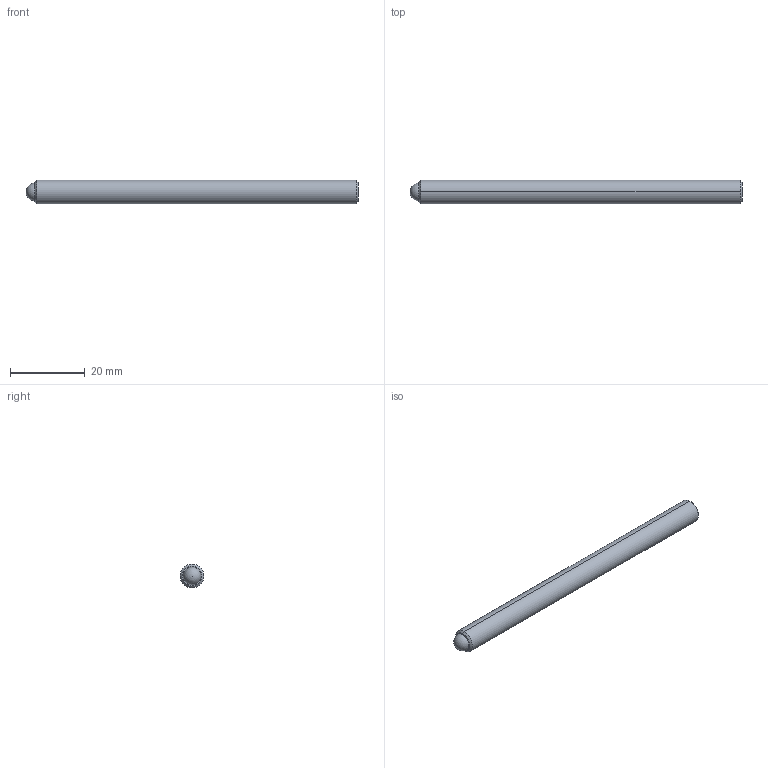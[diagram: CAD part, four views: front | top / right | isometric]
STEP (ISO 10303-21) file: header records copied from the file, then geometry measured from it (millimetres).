
FILE_DESCRIPTION (( 'STEP AP214' ), '1' );
FILE_NAME ('TS250-80-3500-AA.STEP', '2013-02-11T22:17:27', ( 'workpc' ), ( 'Microsoft' ), 'SwSTEP 2.0', 'SolidWorks 2013', '' );
FILE_SCHEMA (( 'AUTOMOTIVE_DESIGN' ));
Length unit declared in the file: inch
Products named in the file (1): TS250-80-3500-AA
Bounding box: 88.9 x 6.35 x 6.35 mm (x, y, z)
Volume: 2748.5 mm3; surface area: 1893.4 mm2
Topology: 2 solids, 2 shells, 20 faces, 45 edges, 29 vertices
Faces by surface type: plane 10, cylinder 4, cone 4, sphere 2
Entity records: 599 total; most frequent: DIRECTION 96, CARTESIAN_POINT 87, ORIENTED_EDGE 80, EDGE_CURVE 40, AXIS2_PLACEMENT_3D 35, VERTEX_POINT 26, LINE 26, VECTOR 26
